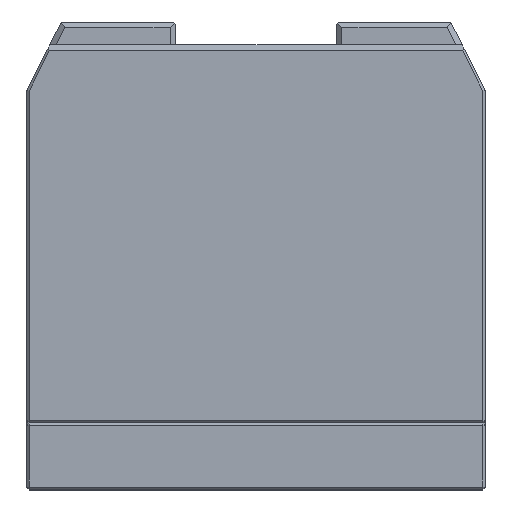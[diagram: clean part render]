
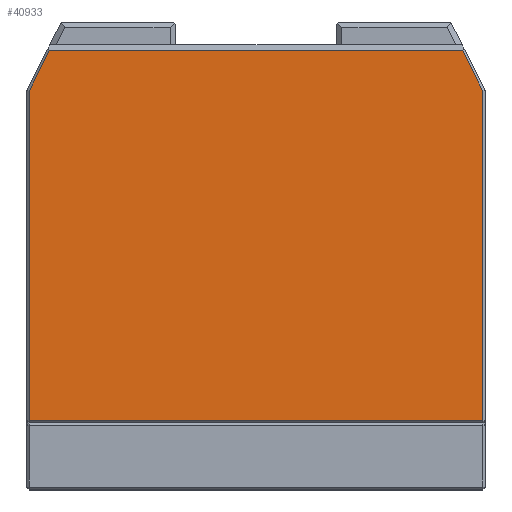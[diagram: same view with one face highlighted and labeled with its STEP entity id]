
A CAD part, top view. The second image highlights one B-rep face of the part: STEP entity #40933.
In plain terms, the highlighted planar face has unit normal (0, 0, -1).
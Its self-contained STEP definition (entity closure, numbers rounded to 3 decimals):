
#766 = CARTESIAN_POINT ( 'NONE',  ( -25.184, 23.683, 54.75 ) ) ;
#1460 = EDGE_CURVE ( 'NONE', #61186, #41132, #64407, .T. ) ;
#2178 = CARTESIAN_POINT ( 'NONE',  ( 12.576, -8.75, 54.75 ) ) ;
#5905 = DIRECTION ( 'NONE',  ( -1., 0., 0. ) ) ;
#6433 = DIRECTION ( 'NONE',  ( 0., 1., 0. ) ) ;
#11271 = CARTESIAN_POINT ( 'NONE',  ( 10.736, 23.683, 54.75 ) ) ;
#11374 = DIRECTION ( 'NONE',  ( -0.447, 0.894, 0. ) ) ;
#15259 = VERTEX_POINT ( 'NONE', #29250 ) ;
#16751 = EDGE_CURVE ( 'NONE', #55763, #15259, #25155, .T. ) ;
#19469 = VERTEX_POINT ( 'NONE', #71043 ) ;
#24985 = LINE ( 'NONE', #766, #58554 ) ;
#25155 = B_SPLINE_CURVE_WITH_KNOTS ( 'NONE', 1,
 ( #49738, #43417 ),
 .UNSPECIFIED., .F., .F.,
 ( 2, 2 ),
 ( 0., 1. ),
 .UNSPECIFIED. ) ;
#25379 = DIRECTION ( 'NONE',  ( -1., 0., 0. ) ) ;
#26218 = EDGE_LOOP ( 'NONE', ( #43734, #32380, #60275, #28143, #43826, #46385 ) ) ;
#28143 = ORIENTED_EDGE ( 'NONE', *, *, #40499, .F. ) ;
#29250 = CARTESIAN_POINT ( 'NONE',  ( -27.024, -8.75, 54.75 ) ) ;
#32106 = EDGE_CURVE ( 'NONE', #19469, #35973, #24985, .T. ) ;
#32380 = ORIENTED_EDGE ( 'NONE', *, *, #71179, .T. ) ;
#34608 = CARTESIAN_POINT ( 'NONE',  ( 10.803, 23.55, 54.75 ) ) ;
#35973 = VERTEX_POINT ( 'NONE', #77615 ) ;
#37739 = CARTESIAN_POINT ( 'NONE',  ( -27.024, 5.737, 54.75 ) ) ;
#37758 = CARTESIAN_POINT ( 'NONE',  ( 12.576, 23.55, 54.75 ) ) ;
#40499 = EDGE_CURVE ( 'NONE', #41132, #19469, #80313, .T. ) ;
#40933 = ADVANCED_FACE ( 'NONE', ( #77240 ), #50182, .F. ) ;
#41132 = VERTEX_POINT ( 'NONE', #34608 ) ;
#41556 = LINE ( 'NONE', #37739, #54323 ) ;
#41849 = CARTESIAN_POINT ( 'NONE',  ( 12.576, 20.003, 54.75 ) ) ;
#42297 = CARTESIAN_POINT ( 'NONE',  ( 12.576, 5.737, 54.75 ) ) ;
#43417 = CARTESIAN_POINT ( 'NONE',  ( -27.024, -8.75, 54.75 ) ) ;
#43734 = ORIENTED_EDGE ( 'NONE', *, *, #16751, .T. ) ;
#43826 = ORIENTED_EDGE ( 'NONE', *, *, #1460, .F. ) ;
#44142 = DIRECTION ( 'NONE',  ( 0., 0., 1. ) ) ;
#45502 = AXIS2_PLACEMENT_3D ( 'NONE', #37758, #44142, #5905 ) ;
#46385 = ORIENTED_EDGE ( 'NONE', *, *, #74072, .T. ) ;
#48623 = DIRECTION ( 'NONE',  ( 0., -1., 0. ) ) ;
#49738 = CARTESIAN_POINT ( 'NONE',  ( 12.576, -8.75, 54.75 ) ) ;
#50182 = PLANE ( 'NONE',  #45502 ) ;
#54323 = VECTOR ( 'NONE', #6433, 1000. ) ;
#55763 = VERTEX_POINT ( 'NONE', #2178 ) ;
#56859 = CARTESIAN_POINT ( 'NONE',  ( -7.224, 23.55, 54.75 ) ) ;
#57627 = VECTOR ( 'NONE', #25379, 1000. ) ;
#58554 = VECTOR ( 'NONE', #64028, 1000. ) ;
#59992 = LINE ( 'NONE', #42297, #74755 ) ;
#60275 = ORIENTED_EDGE ( 'NONE', *, *, #32106, .F. ) ;
#61186 = VERTEX_POINT ( 'NONE', #41849 ) ;
#62452 = VECTOR ( 'NONE', #11374, 1000. ) ;
#64028 = DIRECTION ( 'NONE',  ( -0.447, -0.894, 0. ) ) ;
#64407 = LINE ( 'NONE', #11271, #62452 ) ;
#71043 = CARTESIAN_POINT ( 'NONE',  ( -25.25, 23.55, 54.75 ) ) ;
#71179 = EDGE_CURVE ( 'NONE', #15259, #35973, #41556, .T. ) ;
#74072 = EDGE_CURVE ( 'NONE', #61186, #55763, #59992, .T. ) ;
#74755 = VECTOR ( 'NONE', #48623, 1000. ) ;
#77240 = FACE_OUTER_BOUND ( 'NONE', #26218, .T. ) ;
#77615 = CARTESIAN_POINT ( 'NONE',  ( -27.024, 20.003, 54.75 ) ) ;
#80313 = LINE ( 'NONE', #56859, #57627 ) ;
